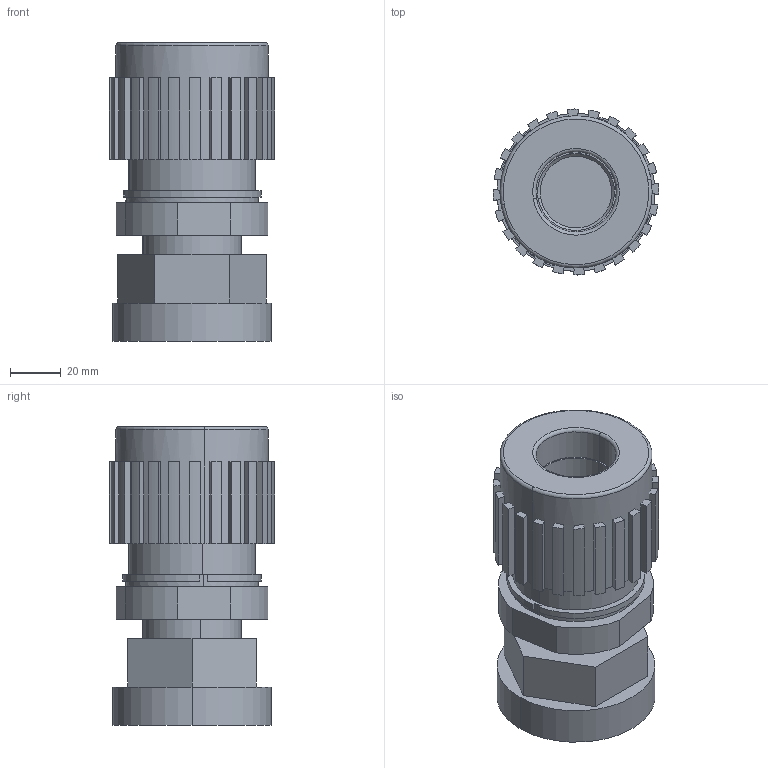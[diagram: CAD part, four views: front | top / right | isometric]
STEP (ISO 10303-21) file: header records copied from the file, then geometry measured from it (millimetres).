
FILE_DESCRIPTION (( 'STEP AP214' ), '1' );
FILE_NAME ('20-s-300-top-mount.STEP', '2012-12-03T21:44:36', ( '' ), ( '' ), 'SwSTEP 2.0', 'SolidWorks 2012', '' );
FILE_SCHEMA (( 'AUTOMOTIVE_DESIGN' ));
Length unit declared in the file: inch
Products named in the file (3): 20-s-300; top-out-adapter; 20-s-300-top-mount
Assembly tree (2 placements, depth 2):
  20-s-300-top-mount
    top-out-adapter
    20-s-300
Bounding box: 65.37 x 65.37 x 117.8 mm (x, y, z)
Volume: 267537.4 mm3; surface area: 51466.8 mm2
Topology: 2 solids, 2 shells, 149 faces, 404 edges, 268 vertices
Faces by surface type: plane 98, cylinder 45, torus 4, cone 2
Entity records: 5187 total; most frequent: DIRECTION 864, CARTESIAN_POINT 826, ORIENTED_EDGE 808, EDGE_CURVE 404, AXIS2_PLACEMENT_3D 306, VERTEX_POINT 268, LINE 252, VECTOR 252
